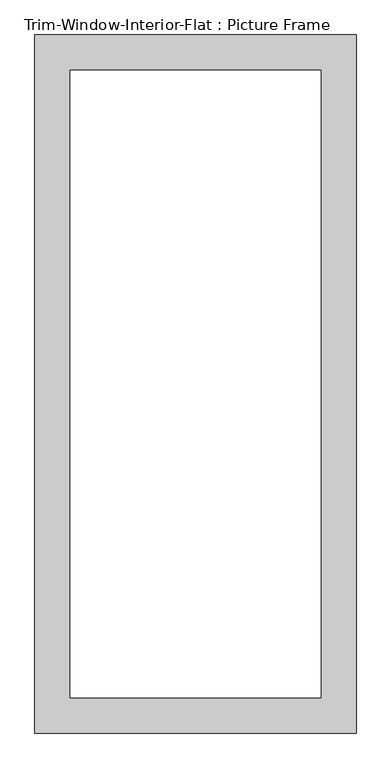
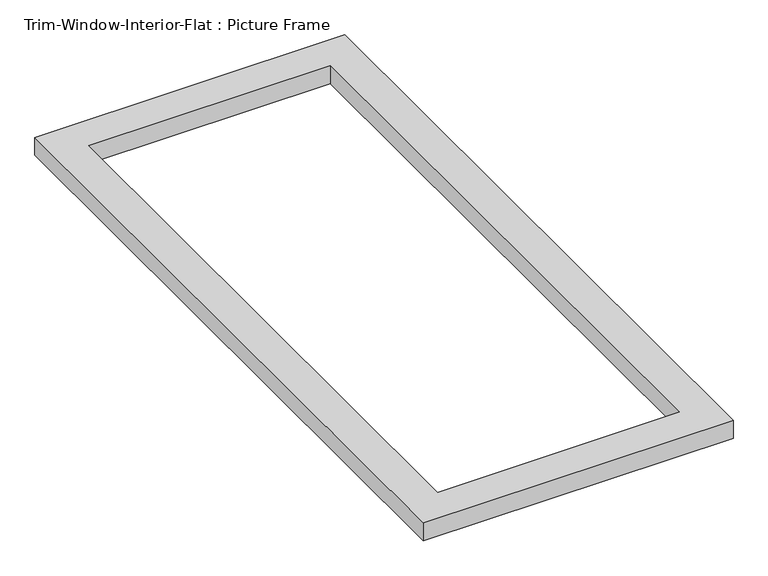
"""IFC4 building model written with IfcOpenShell, lengths in millimetres: proxy geometry, Trim-Window-Interior-Flat : Picture Frame."""

import ifcopenshell
import ifcopenshell.guid

model = None  # the IFC model being written
_history = None  # IfcOwnerHistory: only IFC2X3 demands one
_inside = {}  # id of a spatial element -> (the spatial element, [elements in it])
_under = {}  # id of a project, library or spatial element -> (it, [spatial elements below it])
_declared = {}  # id of a project -> (the project, [libraries it declares])
_typed = {}  # id of a type object -> (the type object, [elements of that type])
_made_of = {}  # id of a material, layer set ... -> (it, [elements and type objects made of it])


def new_model(schema):
    """Start an empty IFC model of exactly this schema.

    Asked for "IFC4X3", IfcOpenShell would pick the latest addendum, in which some entities
    have other attributes; the version numbers below select the first issue.
    IFC2X3 requires an IfcOwnerHistory on every rooted entity: one is made here for all.
    """
    global model, _history
    if schema == "IFC4X3":
        model = ifcopenshell.file(schema_version=(4, 3, 0, 0))
    else:
        model = ifcopenshell.file(schema=schema)
    _inside.clear()
    _under.clear()
    _declared.clear()
    _typed.clear()
    _made_of.clear()
    _history = None
    if model.schema == "IFC2X3":
        org = make("IfcOrganization", Name="unknown")
        user = make(
            "IfcPersonAndOrganization",
            ThePerson=make("IfcPerson", FamilyName="unknown"),
            TheOrganization=org,
        )
        app = make(
            "IfcApplication",
            ApplicationDeveloper=org,
            Version="unknown",
            ApplicationFullName="unknown",
            ApplicationIdentifier="unknown",
        )
        _history = make(
            "IfcOwnerHistory",
            OwningUser=user,
            OwningApplication=app,
            ChangeAction="ADDED",
            CreationDate=0,
        )
    return model


def make(cls, **values):
    """One entity of the class cls with the attributes given. An attribute that is None is left unset."""
    return model.create_entity(
        cls, **{name: value for name, value in values.items() if value is not None}
    )


def rooted(cls, **values):
    """An entity with a GlobalId (a new one), such as an element, a storey or a relation."""
    return make(cls, GlobalId=ifcopenshell.guid.new(), OwnerHistory=_history, **values)


def si_unit(unit_type, name, prefix=None):
    """IfcSIUnit, for example si_unit("LENGTHUNIT", "METRE", prefix="MILLI")."""
    return make("IfcSIUnit", UnitType=unit_type, Prefix=prefix, Name=name)


def assignment(units):
    """IfcUnitAssignment: the units of a project."""
    return None if units is None else make("IfcUnitAssignment", Units=units)


def point(xyz):
    """IfcCartesianPoint."""
    return None if xyz is None else make("IfcCartesianPoint", Coordinates=xyz)


def direction(xyz):
    """IfcDirection."""
    return None if xyz is None else make("IfcDirection", DirectionRatios=xyz)


def frame(location, z_axis=None, x_axis=None):
    """IfcAxis2Placement3D, a coordinate frame: its origin and axes. An axis left out is left unset."""
    return make(
        "IfcAxis2Placement3D",
        Location=point(location),
        Axis=direction(z_axis),
        RefDirection=direction(x_axis),
    )


def origin():
    """The frame at (0, 0, 0) with its axes left unset."""
    return frame((0.0, 0.0, 0.0))


def origin_with_axes():
    """The frame at (0, 0, 0) with the z axis (0, 0, 1) and the x axis (1, 0, 0) written out."""
    return frame((0.0, 0.0, 0.0), z_axis=(0.0, 0.0, 1.0), x_axis=(1.0, 0.0, 0.0))


def place(relative_to, where):
    """IfcLocalPlacement: puts the frame where relative to a parent placement (None: the world)."""
    return make(
        "IfcLocalPlacement", PlacementRelTo=relative_to, RelativePlacement=where
    )


def context(
    kind, dimensions, precision=None, world=None, true_north=None, identifier=None
):
    """IfcGeometricRepresentationContext, for example the 3D "Model" context."""
    return make(
        "IfcGeometricRepresentationContext",
        ContextIdentifier=identifier,
        ContextType=kind,
        CoordinateSpaceDimension=dimensions,
        Precision=precision,
        WorldCoordinateSystem=world,
        TrueNorth=true_north,
    )


def project(units=None, contexts=None):
    """IfcProject with its units and contexts."""
    return rooted(
        "IfcProject",
        Name="project",
        RepresentationContexts=contexts,
        UnitsInContext=assignment(units),
    )


def spatial(cls, under=None, at=None, **own):
    """A site, building, storey or space (cls), placed at a placement, below another one or the project."""
    s = rooted(cls, ObjectPlacement=at, **own)
    if under is not None:
        _under.setdefault(under.id(), (under, []))[1].append(s)
    return s


def polyline(points):
    """IfcPolyline through the points."""
    return make("IfcPolyline", Points=[point(p) for p in points])


def outline(outer, holes=None, kind="AREA"):
    """IfcArbitraryClosedProfileDef: a profile drawn as a closed curve; with holes, ...WithVoids."""
    if holes is None:
        return make("IfcArbitraryClosedProfileDef", ProfileType=kind, OuterCurve=outer)
    return make(
        "IfcArbitraryProfileDefWithVoids",
        ProfileType=kind,
        OuterCurve=outer,
        InnerCurves=holes,
    )


def extrude(swept, where, along, depth):
    """IfcExtrudedAreaSolid: the profile swept, set in the frame where, extruded along a direction by depth."""
    return make(
        "IfcExtrudedAreaSolid",
        SweptArea=swept,
        Position=where,
        ExtrudedDirection=direction(along),
        Depth=depth,
    )


def shape(context_of_items, identifier, shape_type, items):
    """IfcShapeRepresentation: the items that make up one representation, for example the "Body"."""
    return make(
        "IfcShapeRepresentation",
        ContextOfItems=context_of_items,
        RepresentationIdentifier=identifier,
        RepresentationType=shape_type,
        Items=items,
    )


def source(mapping_origin, context_of_items, identifier, shape_type, items):
    """IfcRepresentationMap: a shape defined once, which mapped items show again and again."""
    return make(
        "IfcRepresentationMap",
        MappingOrigin=mapping_origin,
        MappedRepresentation=shape(context_of_items, identifier, shape_type, items),
    )


def transform(
    local_origin,
    x_axis=None,
    y_axis=None,
    z_axis=None,
    scale=None,
    scale2=None,
    scale3=None,
    uniform=True,
):
    """IfcCartesianTransformationOperator3D, or its non-uniform kind. x_axis, y_axis, z_axis: its Axis1, 2, 3."""
    if uniform:
        return make(
            "IfcCartesianTransformationOperator3D",
            Axis1=direction(x_axis),
            Axis2=direction(y_axis),
            LocalOrigin=point(local_origin),
            Scale=scale,
            Axis3=direction(z_axis),
        )
    return make(
        "IfcCartesianTransformationOperator3DnonUniform",
        Axis1=direction(x_axis),
        Axis2=direction(y_axis),
        LocalOrigin=point(local_origin),
        Scale=scale,
        Axis3=direction(z_axis),
        Scale2=scale2,
        Scale3=scale3,
    )


def mapped(mapping_source, mapping_target):
    """IfcMappedItem: shows the shape of a source again, moved by a transform."""
    return make(
        "IfcMappedItem", MappingSource=mapping_source, MappingTarget=mapping_target
    )


def made_of(thing, what):
    """Note that an element or type object is made of a material, layer set ...; save() writes the relation."""
    if what is not None:
        _made_of.setdefault(what.id(), (what, []))[1].append(thing)
    return thing


def element(
    cls,
    number,
    at=None,
    inside=None,
    cuts=None,
    type_object=None,
    material=None,
    context=None,
    identifier="Body",
    shape_type=None,
    held_by="IfcProductDefinitionShape",
    body=None,
    shapes=None,
    **own,
):
    """One element of the class cls, such as IfcWall. Its Tag is "e" and its number.

    at: its placement. inside: the storey or other place that contains it. cuts: it is an
    opening in that element (IfcRelVoidsElement). A single representation is given by context,
    identifier, shape_type and body (its items); several are given by shapes. held_by: the class
    of the entity that holds the representations. save() writes the other relations.
    """
    e = rooted(cls, Tag="e%d" % number, ObjectPlacement=at, **own)
    if body is not None:
        shapes = [shape(context, identifier, shape_type, body)]
    if shapes is not None:
        e.Representation = make(held_by, Representations=shapes)
    if inside is not None:
        _inside.setdefault(inside.id(), (inside, []))[1].append(e)
    if cuts is not None:
        rooted(
            "IfcRelVoidsElement", RelatingBuildingElement=cuts, RelatedOpeningElement=e
        )
    if type_object is not None:
        _typed.setdefault(type_object.id(), (type_object, []))[1].append(e)
    return made_of(e, material)


def aggregate(whole, parts):
    """IfcRelAggregates: a whole, such as a stair, and the parts it consists of."""
    return rooted("IfcRelAggregates", RelatingObject=whole, RelatedObjects=parts)


def save(model, path):
    """Write the relations noted so far, then the file.

    IfcRelAggregates (storeys below a building ...), IfcRelContainedInSpatialStructure (elements
    in a storey), IfcRelDefinesByType, IfcRelAssociatesMaterial and IfcRelDeclares: one each for
    every whole, place, type object, material and project.
    """
    for whole, parts in _under.values():
        aggregate(whole, parts)
    for where, things in _inside.values():
        rooted(
            "IfcRelContainedInSpatialStructure",
            RelatedElements=things,
            RelatingStructure=where,
        )
    for kind, things in _typed.values():
        rooted("IfcRelDefinesByType", RelatedObjects=things, RelatingType=kind)
    for what, things in _made_of.values():
        rooted("IfcRelAssociatesMaterial", RelatedObjects=things, RelatingMaterial=what)
    for by, libraries in _declared.values():
        rooted("IfcRelDeclares", RelatingContext=by, RelatedDefinitions=libraries)
    model.write(path)


def trim_window_interior_flat_picture_frame_12d5bf92(model_context):
    return source(origin(), model_context, "Body", "SweptSolid", [
        extrude(outline(polyline([(260.35, 44.45), (260.35, -1085.85), (-260.35, -1085.85), (-260.35, 44.45), (260.35, 44.45)]), holes=[polyline([(203.2, -12.7), (-203.2, -12.7), (-203.2, -1028.7), (203.2, -1028.7), (203.2, -12.7)])]), origin_with_axes(), (0.0, 0.0, 1.0), 31.75),
    ])


if __name__ == "__main__":
    model = new_model("IFC4")
    model_context = context("Model", 3, world=origin())
    ifc_project = project(units=[si_unit("LENGTHUNIT", "METRE", prefix="MILLI")], contexts=[model_context])
    site = spatial("IfcSite", under=ifc_project)
    building = spatial("IfcBuilding", under=site)
    placement = place(None, origin())
    trim_window_interior_flat_picture_frame_shape = trim_window_interior_flat_picture_frame_12d5bf92(model_context)
    element("IfcBuildingElementProxy", 1, Name="Trim-Window-Interior-Flat : Picture Frame", ObjectType="Trim-Window-Interior-Flat : Picture Frame", at=placement, inside=building, context=model_context, shape_type="MappedRepresentation", body=[
        mapped(trim_window_interior_flat_picture_frame_shape, transform((0.0, 0.0, 0.0), x_axis=(1.0, 0.0, 0.0), y_axis=(0.0, 1.0, 0.0), z_axis=(0.0, 0.0, 1.0))),
    ])
    save(model, "model.ifc")
